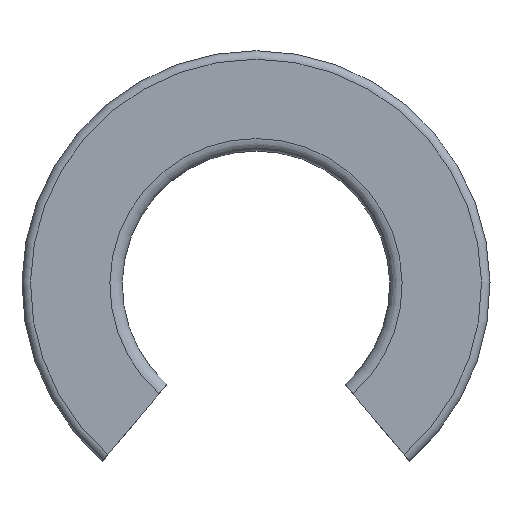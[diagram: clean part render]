
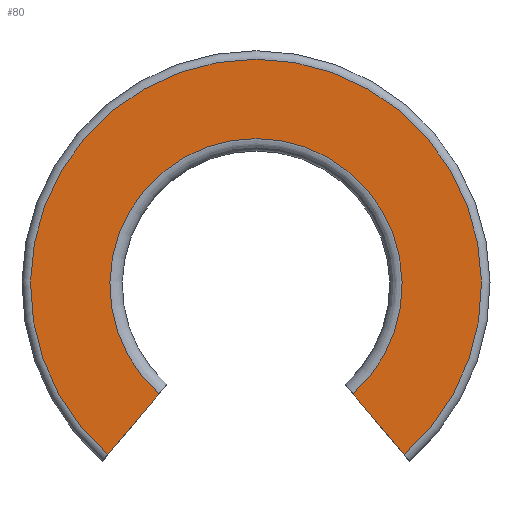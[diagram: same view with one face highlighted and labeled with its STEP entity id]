
A CAD part, left-side view. The second image highlights one B-rep face of the part: STEP entity #80.
In plain terms, the highlighted planar face has unit normal (-1, 0, 0).
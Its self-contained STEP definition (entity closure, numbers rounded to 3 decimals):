
#80=ADVANCED_FACE('',(#112),#113,.F.);
#112=FACE_OUTER_BOUND('',#164,.T.);
#113=PLANE('',#165);
#164=EDGE_LOOP('',(#261,#262,#263,#264));
#165=AXIS2_PLACEMENT_3D('',#265,#266,#267);
#261=ORIENTED_EDGE('',*,*,#428,.F.);
#262=ORIENTED_EDGE('',*,*,#454,.F.);
#263=ORIENTED_EDGE('',*,*,#462,.F.);
#264=ORIENTED_EDGE('',*,*,#463,.T.);
#265=CARTESIAN_POINT('',(0.0,10.119,0.0));
#266=DIRECTION('',(1.0,0.0,0.0));
#267=DIRECTION('',(0.0,0.0,-1.0));
#428=EDGE_CURVE('',#500,#501,#502,.T.);
#454=EDGE_CURVE('',#550,#500,#552,.T.);
#462=EDGE_CURVE('',#564,#550,#565,.T.);
#463=EDGE_CURVE('',#564,#501,#566,.T.);
#500=VERTEX_POINT('',#620);
#501=VERTEX_POINT('',#621);
#502=LINE('',#622,#623);
#550=VERTEX_POINT('',#710);
#552=CIRCLE('',#717,6.558);
#564=VERTEX_POINT('',#740);
#565=LINE('',#741,#742);
#566=CIRCLE('',#743,10.119);
#620=CARTESIAN_POINT('',(0.0,4.359,-4.9));
#621=CARTESIAN_POINT('',(0.0,6.648,-7.628));
#622=CARTESIAN_POINT('',(0.0,4.326,-4.861));
#623=VECTOR('',#820,1.0);
#710=CARTESIAN_POINT('',(0.0,-4.359,-4.9));
#717=AXIS2_PLACEMENT_3D('',#843,#844,#845);
#740=CARTESIAN_POINT('',(0.0,-6.648,-7.628));
#741=CARTESIAN_POINT('',(0.0,4.036,5.104));
#742=VECTOR('',#859,1.0);
#743=AXIS2_PLACEMENT_3D('',#860,#861,#862);
#820=DIRECTION('',(0.0,0.643,-0.766));
#843=CARTESIAN_POINT('',(0.0,0.0,0.0));
#844=DIRECTION('',(-1.0,0.0,0.0));
#845=DIRECTION('',(0.0,0.0,1.0));
#859=DIRECTION('',(0.0,0.643,0.766));
#860=CARTESIAN_POINT('',(0.0,0.0,0.0));
#861=DIRECTION('',(-1.0,0.0,0.0));
#862=DIRECTION('',(0.0,0.0,1.0));
